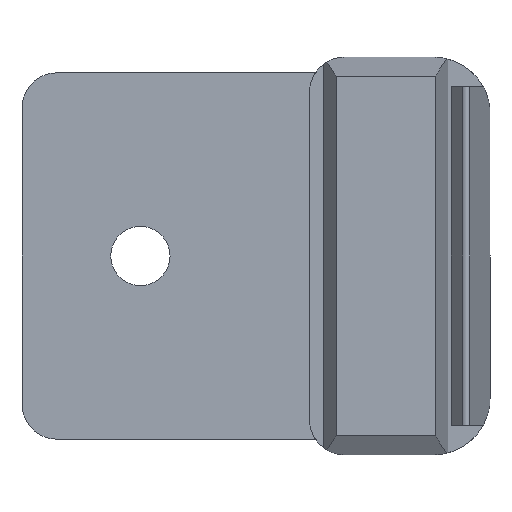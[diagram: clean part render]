
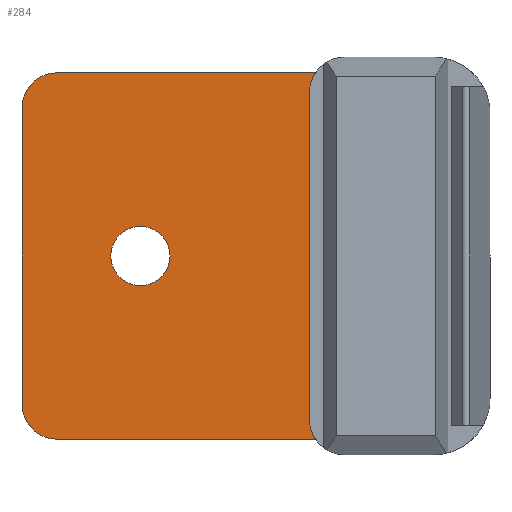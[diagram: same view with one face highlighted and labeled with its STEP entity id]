
A CAD part, front view. The second image highlights one B-rep face of the part: STEP entity #284.
In plain terms, the highlighted planar face has unit normal (0, -1, 0).
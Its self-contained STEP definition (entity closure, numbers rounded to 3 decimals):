
#105 = CARTESIAN_POINT ( 'NONE',  ( -5.9, 0., 10.5 ) ) ;
#106 = DIRECTION ( 'NONE',  ( 0., -1., 0. ) ) ;
#107 = DIRECTION ( 'NONE',  ( -1., 0., 0. ) ) ;
#108 = CARTESIAN_POINT ( 'NONE',  ( -8.4, 0., 13. ) ) ;
#111 = DIRECTION ( 'NONE',  ( -1., 0., 0. ) ) ;
#144 = CARTESIAN_POINT ( 'NONE',  ( 14.5, 0., 11.6 ) ) ;
#145 = DIRECTION ( 'NONE',  ( 0., 1., 0. ) ) ;
#146 = DIRECTION ( 'NONE',  ( -1., 0., 0. ) ) ;
#157 = CARTESIAN_POINT ( 'NONE',  ( 0., 0., 0. ) ) ;
#159 = DIRECTION ( 'NONE',  ( 0., -1., 0. ) ) ;
#160 = DIRECTION ( 'NONE',  ( 1., 0., 0. ) ) ;
#196 = CARTESIAN_POINT ( 'NONE',  ( 0., 0., 0. ) ) ;
#203 = DIRECTION ( 'NONE',  ( 0., -1., 0. ) ) ;
#204 = DIRECTION ( 'NONE',  ( 1., 0., 0. ) ) ;
#236 = CARTESIAN_POINT ( 'NONE',  ( -8.4, 0., -13. ) ) ;
#250 = DIRECTION ( 'NONE',  ( 0., 0., -1. ) ) ;
#273 = CARTESIAN_POINT ( 'NONE',  ( -5.9, 0., -10.5 ) ) ;
#277 = CARTESIAN_POINT ( 'NONE',  ( 14.5, 0., -11.6 ) ) ;
#278 = DIRECTION ( 'NONE',  ( 0., -1., 0. ) ) ;
#279 = DIRECTION ( 'NONE',  ( -1., 0., 0. ) ) ;
#284 = ADVANCED_FACE ( 'NONE', ( #775, #763 ), #686, .F. ) ;
#322 = CIRCLE ( 'NONE', #517, 2.1 ) ;
#332 = VECTOR ( 'NONE', #1048, 1000. ) ;
#333 = LINE ( 'NONE', #1047, #332 ) ;
#350 = CIRCLE ( 'NONE', #529, 2.5 ) ;
#354 = VECTOR ( 'NONE', #1026, 1000. ) ;
#368 = CIRCLE ( 'NONE', #475, 2.5 ) ;
#370 = LINE ( 'NONE', #1025, #354 ) ;
#390 = VECTOR ( 'NONE', #250, 1000. ) ;
#396 = LINE ( 'NONE', #236, #390 ) ;
#418 = CIRCLE ( 'NONE', #532, 2.1 ) ;
#435 = CIRCLE ( 'NONE', #561, 2.5 ) ;
#459 = EDGE_CURVE ( 'NONE', #633, #628, #716, .T. ) ;
#462 = EDGE_CURVE ( 'NONE', #630, #633, #718, .T. ) ;
#475 = AXIS2_PLACEMENT_3D ( 'NONE', #273, #278, #279 ) ;
#489 = EDGE_CURVE ( 'NONE', #629, #630, #435, .T. ) ;
#497 = EDGE_CURVE ( 'NONE', #632, #631, #322, .T. ) ;
#517 = AXIS2_PLACEMENT_3D ( 'NONE', #157, #159, #160 ) ;
#526 = AXIS2_PLACEMENT_3D ( 'NONE', #685, #1143, #687 ) ;
#529 = AXIS2_PLACEMENT_3D ( 'NONE', #277, #1023, #1024 ) ;
#532 = AXIS2_PLACEMENT_3D ( 'NONE', #196, #203, #204 ) ;
#535 = EDGE_CURVE ( 'NONE', #631, #632, #418, .T. ) ;
#561 = AXIS2_PLACEMENT_3D ( 'NONE', #144, #145, #146 ) ;
#563 = EDGE_CURVE ( 'NONE', #628, #627, #396, .T. ) ;
#580 = EDGE_CURVE ( 'NONE', #627, #626, #368, .T. ) ;
#592 = EDGE_CURVE ( 'NONE', #625, #624, #350, .T. ) ;
#593 = EDGE_CURVE ( 'NONE', #629, #624, #370, .T. ) ;
#604 = EDGE_CURVE ( 'NONE', #626, #625, #333, .T. ) ;
#610 = AXIS2_PLACEMENT_3D ( 'NONE', #105, #106, #107 ) ;
#624 = VERTEX_POINT ( 'NONE', #1062 ) ;
#625 = VERTEX_POINT ( 'NONE', #1063 ) ;
#626 = VERTEX_POINT ( 'NONE', #1054 ) ;
#627 = VERTEX_POINT ( 'NONE', #1064 ) ;
#628 = VERTEX_POINT ( 'NONE', #1065 ) ;
#629 = VERTEX_POINT ( 'NONE', #1066 ) ;
#630 = VERTEX_POINT ( 'NONE', #1067 ) ;
#631 = VERTEX_POINT ( 'NONE', #1068 ) ;
#632 = VERTEX_POINT ( 'NONE', #1069 ) ;
#633 = VERTEX_POINT ( 'NONE', #1070 ) ;
#685 = CARTESIAN_POINT ( 'NONE',  ( 12., 0., 14.1 ) ) ;
#686 = PLANE ( 'NONE',  #526 ) ;
#687 = DIRECTION ( 'NONE',  ( -1., 0., 0. ) ) ;
#715 = VECTOR ( 'NONE', #111, 1000. ) ;
#716 = CIRCLE ( 'NONE', #610, 2.5 ) ;
#718 = LINE ( 'NONE', #108, #715 ) ;
#763 = FACE_OUTER_BOUND ( 'NONE', #940, .T. ) ;
#775 = FACE_BOUND ( 'NONE', #938, .T. ) ;
#938 = EDGE_LOOP ( 'NONE', ( #994, #961 ) ) ;
#940 = EDGE_LOOP ( 'NONE', ( #987, #975, #989, #960, #957, #958, #976, #959 ) ) ;
#957 = ORIENTED_EDGE ( 'NONE', *, *, #593, .F. ) ;
#958 = ORIENTED_EDGE ( 'NONE', *, *, #489, .T. ) ;
#959 = ORIENTED_EDGE ( 'NONE', *, *, #459, .T. ) ;
#960 = ORIENTED_EDGE ( 'NONE', *, *, #592, .T. ) ;
#961 = ORIENTED_EDGE ( 'NONE', *, *, #497, .F. ) ;
#975 = ORIENTED_EDGE ( 'NONE', *, *, #580, .T. ) ;
#976 = ORIENTED_EDGE ( 'NONE', *, *, #462, .T. ) ;
#987 = ORIENTED_EDGE ( 'NONE', *, *, #563, .T. ) ;
#989 = ORIENTED_EDGE ( 'NONE', *, *, #604, .T. ) ;
#994 = ORIENTED_EDGE ( 'NONE', *, *, #535, .F. ) ;
#1023 = DIRECTION ( 'NONE',  ( 0., 1., 0. ) ) ;
#1024 = DIRECTION ( 'NONE',  ( -1., 0., 0. ) ) ;
#1025 = CARTESIAN_POINT ( 'NONE',  ( 12., 0., 14.1 ) ) ;
#1026 = DIRECTION ( 'NONE',  ( 0., 0., -1. ) ) ;
#1047 = CARTESIAN_POINT ( 'NONE',  ( -8.4, 0., -13. ) ) ;
#1048 = DIRECTION ( 'NONE',  ( 1., 0., 0. ) ) ;
#1054 = CARTESIAN_POINT ( 'NONE',  ( -5.9, 0., -13. ) ) ;
#1062 = CARTESIAN_POINT ( 'NONE',  ( 12., 0., -11.6 ) ) ;
#1063 = CARTESIAN_POINT ( 'NONE',  ( 12.429, 0., -13. ) ) ;
#1064 = CARTESIAN_POINT ( 'NONE',  ( -8.4, 0., -10.5 ) ) ;
#1065 = CARTESIAN_POINT ( 'NONE',  ( -8.4, 0., 10.5 ) ) ;
#1066 = CARTESIAN_POINT ( 'NONE',  ( 12., 0., 11.6 ) ) ;
#1067 = CARTESIAN_POINT ( 'NONE',  ( 12.429, 0., 13. ) ) ;
#1068 = CARTESIAN_POINT ( 'NONE',  ( 2.1, 0., 0. ) ) ;
#1069 = CARTESIAN_POINT ( 'NONE',  ( -2.1, 0., 0. ) ) ;
#1070 = CARTESIAN_POINT ( 'NONE',  ( -5.9, 0., 13. ) ) ;
#1143 = DIRECTION ( 'NONE',  ( 0., 1., 0. ) ) ;
